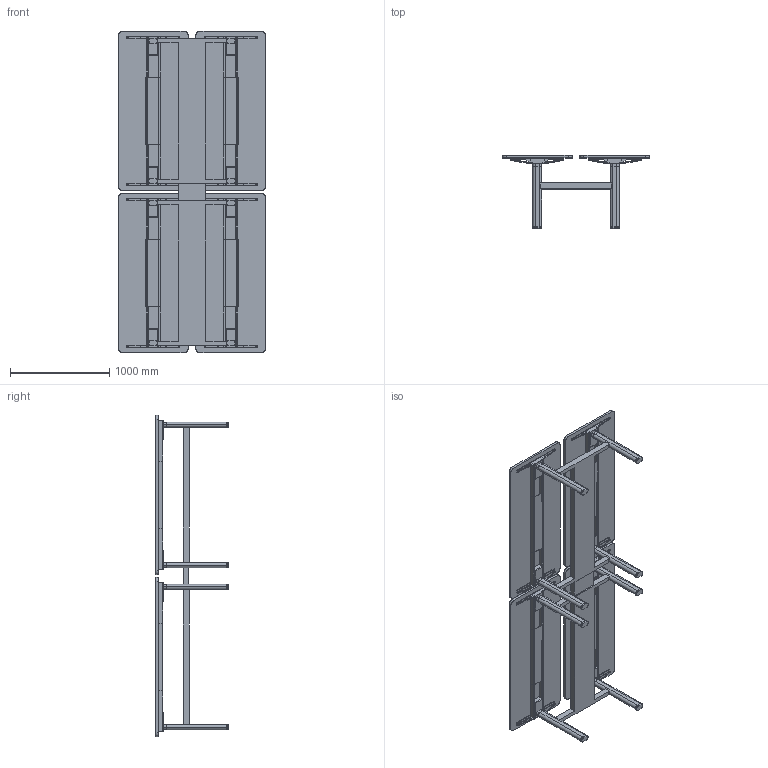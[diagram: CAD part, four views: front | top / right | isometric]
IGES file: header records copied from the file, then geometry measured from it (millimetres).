
Start section: SolidWorks IGES file using analytic representation for surfaces
Global section: file name: C:\Users\simone.cerana\OneDrive - Gruppo Tecno\Desktop\CHINA\DISEGNI DI SERIE\ASSIEMI LISTINO\AXIS LISTINO\FULL OPT\AX3214FO.IGS; native system: SolidWorks 2024; preprocessor: SolidWorks 2024; author: simone.cerana; date: 260512.114652; units: millimetre
Bounding box: 1480 x 730.14 x 3230 mm (x, y, z)
Surface area: 15826350.6 mm2 (no closed solid volume)
Topology: 0 solids, 0 shells, 1182 faces, 13368 edges, 13352 vertices
Faces by surface type: bspline 622, revolution 560
